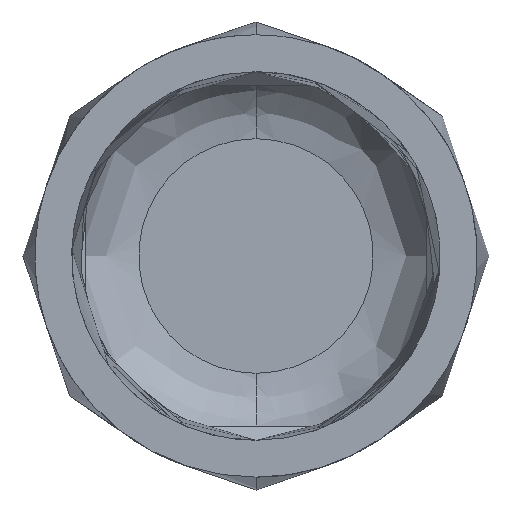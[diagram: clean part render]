
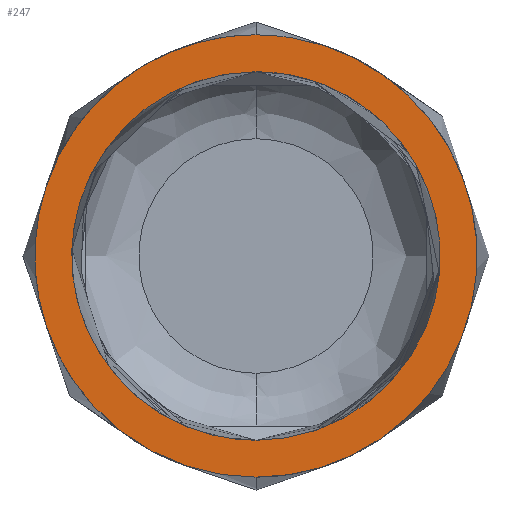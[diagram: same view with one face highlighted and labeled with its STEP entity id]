
A CAD part, left-side view. The second image highlights one B-rep face of the part: STEP entity #247.
In plain terms, the highlighted free-form (B-spline) face has degree [1, 1] with [2, 2] control points.
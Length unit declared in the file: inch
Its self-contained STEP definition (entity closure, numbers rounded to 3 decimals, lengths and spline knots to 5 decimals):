
#18 = CARTESIAN_POINT ( 'NONE',  ( 0., 0.0275, 0. ) ) ;
#59 = B_SPLINE_CURVE_WITH_KNOTS ( 'NONE', 3,
 ( #73, #267, #1261, #294, #698, #482, #1127, #374, #225, #195 ),
 .UNSPECIFIED., .F., .F.,
 ( 4, 2, 2, 2, 4 ),
 ( 0., 0.7854, 1.5708, 2.35619, 3.14159 ),
 .UNSPECIFIED. ) ;
#73 = CARTESIAN_POINT ( 'NONE',  ( 0., 0., -0.033 ) ) ;
#96 = ORIENTED_EDGE ( 'NONE', *, *, #950, .T. ) ;
#116 = VERTEX_POINT ( 'NONE', #816 ) ;
#165 =( BOUNDED_CURVE ( )  B_SPLINE_CURVE ( 3, ( #1066, #943, #185, #532 ),
 .UNSPECIFIED., .F., .F. ) 
 B_SPLINE_CURVE_WITH_KNOTS ( ( 4, 4 ),
 ( -3.14159, 0. ),
 .UNSPECIFIED. ) 
 CURVE ( )  GEOMETRIC_REPRESENTATION_ITEM ( )  RATIONAL_B_SPLINE_CURVE ( ( 1., 0.333, 0.333, 1. ) ) 
 REPRESENTATION_ITEM ( '' )  );
#168 = FACE_OUTER_BOUND ( 'NONE', #1086, .T. ) ;
#185 = CARTESIAN_POINT ( 'NONE',  ( 0., -0.055, 0.0275 ) ) ;
#195 = CARTESIAN_POINT ( 'NONE',  ( 0., 0., 0.033 ) ) ;
#199 = CARTESIAN_POINT ( 'NONE',  ( 0., 0., 0.033 ) ) ;
#202 = ORIENTED_EDGE ( 'NONE', *, *, #484, .F. ) ;
#225 = CARTESIAN_POINT ( 'NONE',  ( 0., -0.00875, 0.033 ) ) ;
#247 = ADVANCED_FACE ( 'NONE', ( #1130, #168 ), #1257, .F. ) ;
#267 = CARTESIAN_POINT ( 'NONE',  ( 0., -0.00875, -0.033 ) ) ;
#269 = CARTESIAN_POINT ( 'NONE',  ( 0., -0.0334, -0.0334 ) ) ;
#294 = CARTESIAN_POINT ( 'NONE',  ( 0., -0.02952, -0.01715 ) ) ;
#314 =( BOUNDED_CURVE ( )  B_SPLINE_CURVE ( 3, ( #1321, #338, #348, #18, #996, #1313, #782 ),
 .UNSPECIFIED., .F., .F. ) 
 B_SPLINE_CURVE_WITH_KNOTS ( ( 4, 3, 4 ),
 ( -3.14159, -1.5708, 0. ),
 .UNSPECIFIED. ) 
 CURVE ( )  GEOMETRIC_REPRESENTATION_ITEM ( )  RATIONAL_B_SPLINE_CURVE ( ( 1., 0.805, 0.805, 1., 0.805, 0.805, 1. ) ) 
 REPRESENTATION_ITEM ( '' )  );
#338 = CARTESIAN_POINT ( 'NONE',  ( 0., 0.01611, 0.0275 ) ) ;
#348 = CARTESIAN_POINT ( 'NONE',  ( 0., 0.0275, 0.01611 ) ) ;
#370 = EDGE_CURVE ( 'NONE', #1123, #843, #165, .T. ) ;
#374 = CARTESIAN_POINT ( 'NONE',  ( 0., -0.01715, 0.02952 ) ) ;
#381 = CARTESIAN_POINT ( 'NONE',  ( 0., 0.0334, -0.0334 ) ) ;
#418 = ORIENTED_EDGE ( 'NONE', *, *, #370, .F. ) ;
#449 = CARTESIAN_POINT ( 'NONE',  ( 0., 0., -0.0275 ) ) ;
#468 = ORIENTED_EDGE ( 'NONE', *, *, #1121, .F. ) ;
#482 = CARTESIAN_POINT ( 'NONE',  ( 0., -0.033, 0.00875 ) ) ;
#484 = EDGE_CURVE ( 'NONE', #687, #116, #1133, .T. ) ;
#505 = CARTESIAN_POINT ( 'NONE',  ( 0., 0.01933, 0.033 ) ) ;
#532 = CARTESIAN_POINT ( 'NONE',  ( 0., 0., 0.0275 ) ) ;
#570 = CARTESIAN_POINT ( 'NONE',  ( 0., 0., -0.033 ) ) ;
#587 = CARTESIAN_POINT ( 'NONE',  ( 0., -0.0334, 0.0334 ) ) ;
#687 = VERTEX_POINT ( 'NONE', #570 ) ;
#698 = CARTESIAN_POINT ( 'NONE',  ( 0., -0.033, -0.00875 ) ) ;
#782 = CARTESIAN_POINT ( 'NONE',  ( 0., 0., -0.0275 ) ) ;
#816 = CARTESIAN_POINT ( 'NONE',  ( 0., 0., 0.033 ) ) ;
#843 = VERTEX_POINT ( 'NONE', #1048 ) ;
#910 = CARTESIAN_POINT ( 'NONE',  ( 0., 0.0334, 0.0334 ) ) ;
#919 = CARTESIAN_POINT ( 'NONE',  ( 0., 0.033, -0.01933 ) ) ;
#938 = CARTESIAN_POINT ( 'NONE',  ( 0., 0., -0.033 ) ) ;
#943 = CARTESIAN_POINT ( 'NONE',  ( 0., -0.055, -0.0275 ) ) ;
#950 = EDGE_CURVE ( 'NONE', #687, #116, #59, .T. ) ;
#996 = CARTESIAN_POINT ( 'NONE',  ( 0., 0.0275, -0.01611 ) ) ;
#1043 = CARTESIAN_POINT ( 'NONE',  ( 0., 0.01933, -0.033 ) ) ;
#1048 = CARTESIAN_POINT ( 'NONE',  ( 0., 0., 0.0275 ) ) ;
#1066 = CARTESIAN_POINT ( 'NONE',  ( 0., 0., -0.0275 ) ) ;
#1072 = CARTESIAN_POINT ( 'NONE',  ( 0., 0.033, 0.01933 ) ) ;
#1086 = EDGE_LOOP ( 'NONE', ( #96, #202 ) ) ;
#1121 = EDGE_CURVE ( 'NONE', #843, #1123, #314, .T. ) ;
#1123 = VERTEX_POINT ( 'NONE', #449 ) ;
#1127 = CARTESIAN_POINT ( 'NONE',  ( 0., -0.02952, 0.01715 ) ) ;
#1130 = FACE_BOUND ( 'NONE', #1192, .T. ) ;
#1133 =( BOUNDED_CURVE ( )  B_SPLINE_CURVE ( 3, ( #938, #1043, #919, #1352, #1072, #505, #199 ),
 .UNSPECIFIED., .F., .F. ) 
 B_SPLINE_CURVE_WITH_KNOTS ( ( 4, 3, 4 ),
 ( -3.14159, -1.5708, 0. ),
 .UNSPECIFIED. ) 
 CURVE ( )  GEOMETRIC_REPRESENTATION_ITEM ( )  RATIONAL_B_SPLINE_CURVE ( ( 1., 0.805, 0.805, 1., 0.805, 0.805, 1. ) ) 
 REPRESENTATION_ITEM ( '' )  );
#1192 = EDGE_LOOP ( 'NONE', ( #418, #468 ) ) ;
#1257 = B_SPLINE_SURFACE_WITH_KNOTS ( 'NONE', 1, 1, ( 
 ( #587, #910 ),
 ( #269, #381 ) ),
 .UNSPECIFIED., .F., .F., .F.,
 ( 2, 2 ),
 ( 2, 2 ),
 ( 0., 1. ),
 ( 0., 1. ),
 .UNSPECIFIED. ) ;
#1261 = CARTESIAN_POINT ( 'NONE',  ( 0., -0.01715, -0.02952 ) ) ;
#1313 = CARTESIAN_POINT ( 'NONE',  ( 0., 0.01611, -0.0275 ) ) ;
#1321 = CARTESIAN_POINT ( 'NONE',  ( 0., 0., 0.0275 ) ) ;
#1352 = CARTESIAN_POINT ( 'NONE',  ( 0., 0.033, 0. ) ) ;
